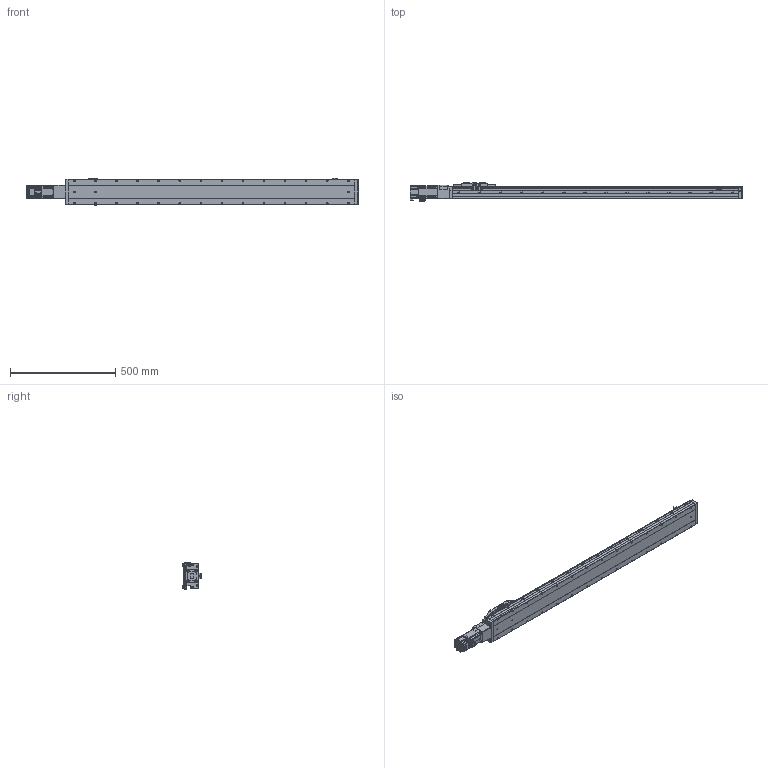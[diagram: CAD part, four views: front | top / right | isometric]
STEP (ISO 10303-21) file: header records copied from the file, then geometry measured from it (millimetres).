
FILE_DESCRIPTION (( 'STEP AP214' ), '1' );
FILE_NAME ('CTH12-L10-S1150-BC-C40（简）.STEP', '2023-02-06T05:19:25', ( '' ), ( '' ), 'SwSTEP 2.0', 'SolidWorks 2018', '' );
FILE_SCHEMA (( 'AUTOMOTIVE_DESIGN' ));
Length unit declared in the file: millimetre
Products named in the file (23): 蚐郲; PM-Y45; CTH12-BL_body_4; CTH12底座-L1361简（1150行程）; CTH12賑怢郪磁; CTH12賑怢ㄗ潠ㄘ; 嫖萇羲壽郪磁1333; 内六角圆柱头螺钉M3-2; CTH12-BC-06-T40（cth8-bc-06-t40-G）_1; CTH12_body_3; CTH嫖萇羲壽假蚾啣; CTH12; 内六角圆柱头螺钉M3; CTH12-L10-S1150-BC-C40（简）; CTH12-BC-03_1; 嫖萇羲壽郪磁2; 内六角圆柱头螺钉M3-1; 400W萇儂; hex nuts, style 1-grades ab gb_GB_FASTENER_NUT_SNAB1 M3-N; 湮賑怢  裔赽-1(CTH12)賑怢; CTH12覜茼え; M5蹟隊; CTH12萇儂釱
Assembly tree (43 placements, depth 4):
  CTH12-L10-S1150-BC-C40（简）
    CTH12底座-L1361简（1150行程）
    蚐郲  x2
    CTH12-BL_body_4
    CTH12_body_3
    CTH12賑怢郪磁
      CTH12
        湮賑怢  裔赽-1(CTH12)賑怢
        CTH12賑怢ㄗ潠ㄘ
    CTH12覜茼え
    嫖萇羲壽郪磁2
      CTH嫖萇羲壽假蚾啣
      PM-Y45
      内六角圆柱头螺钉M3-1  x2
      内六角圆柱头螺钉M3-2  x2
      hex nuts, style 1-grades ab gb_GB_FASTENER_NUT_SNAB1 M3-N  x2
    CTH12萇儂釱
      CTH12-BC-03_1
      CTH12-BC-06-T40（cth8-bc-06-t40-G）_1
    嫖萇羲壽郪磁1333  x2
      CTH嫖萇羲壽假蚾啣
      PM-Y45
      内六角圆柱头螺钉M3-2
      内六角圆柱头螺钉M3-1
      hex nuts, style 1-grades ab gb_GB_FASTENER_NUT_SNAB1 M3-N
    内六角圆柱头螺钉M3  x6
    400W萇儂
    M5蹟隊  x4
Bounding box: 1575.8 x 86.5 x 131.52 mm (x, y, z)
Volume: 9283333 mm3; surface area: 807377.6 mm2
Topology: 45 solids, 47 shells, 3110 faces, 7734 edges, 4849 vertices
Faces by surface type: plane 1520, cylinder 923, cone 395, bspline 144, torus 124, sphere 4
Entity records: 97504 total; most frequent: CARTESIAN_POINT 33182, ORIENTED_EDGE 12570, DIRECTION 12280, EDGE_CURVE 6285, AXIS2_PLACEMENT_3D 4317, VERTEX_POINT 3953, LINE 3646, VECTOR 3646
